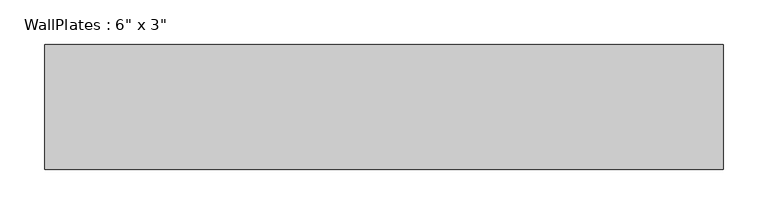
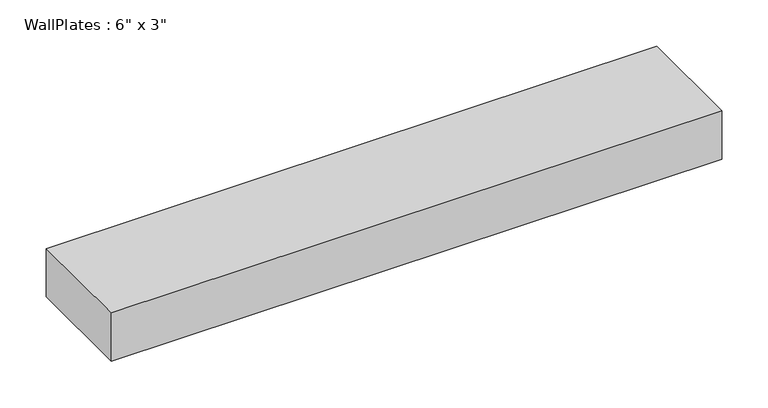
"""IFC4 building model written with IfcOpenShell, lengths in millimetres: beam geometry."""

import ifcopenshell
import ifcopenshell.guid

model = None  # the IFC model being written
_history = None  # IfcOwnerHistory: only IFC2X3 demands one
_inside = {}  # id of a spatial element -> (the spatial element, [elements in it])
_under = {}  # id of a project, library or spatial element -> (it, [spatial elements below it])
_declared = {}  # id of a project -> (the project, [libraries it declares])
_typed = {}  # id of a type object -> (the type object, [elements of that type])
_made_of = {}  # id of a material, layer set ... -> (it, [elements and type objects made of it])


def new_model(schema):
    """Start an empty IFC model of exactly this schema.

    Asked for "IFC4X3", IfcOpenShell would pick the latest addendum, in which some entities
    have other attributes; the version numbers below select the first issue.
    IFC2X3 requires an IfcOwnerHistory on every rooted entity: one is made here for all.
    """
    global model, _history
    if schema == "IFC4X3":
        model = ifcopenshell.file(schema_version=(4, 3, 0, 0))
    else:
        model = ifcopenshell.file(schema=schema)
    _inside.clear()
    _under.clear()
    _declared.clear()
    _typed.clear()
    _made_of.clear()
    _history = None
    if model.schema == "IFC2X3":
        org = make("IfcOrganization", Name="unknown")
        user = make(
            "IfcPersonAndOrganization",
            ThePerson=make("IfcPerson", FamilyName="unknown"),
            TheOrganization=org,
        )
        app = make(
            "IfcApplication",
            ApplicationDeveloper=org,
            Version="unknown",
            ApplicationFullName="unknown",
            ApplicationIdentifier="unknown",
        )
        _history = make(
            "IfcOwnerHistory",
            OwningUser=user,
            OwningApplication=app,
            ChangeAction="ADDED",
            CreationDate=0,
        )
    return model


def make(cls, **values):
    """One entity of the class cls with the attributes given. An attribute that is None is left unset."""
    return model.create_entity(
        cls, **{name: value for name, value in values.items() if value is not None}
    )


def rooted(cls, **values):
    """An entity with a GlobalId (a new one), such as an element, a storey or a relation."""
    return make(cls, GlobalId=ifcopenshell.guid.new(), OwnerHistory=_history, **values)


def si_unit(unit_type, name, prefix=None):
    """IfcSIUnit, for example si_unit("LENGTHUNIT", "METRE", prefix="MILLI")."""
    return make("IfcSIUnit", UnitType=unit_type, Prefix=prefix, Name=name)


def assignment(units):
    """IfcUnitAssignment: the units of a project."""
    return None if units is None else make("IfcUnitAssignment", Units=units)


def point(xyz):
    """IfcCartesianPoint."""
    return None if xyz is None else make("IfcCartesianPoint", Coordinates=xyz)


def direction(xyz):
    """IfcDirection."""
    return None if xyz is None else make("IfcDirection", DirectionRatios=xyz)


def frame(location, z_axis=None, x_axis=None):
    """IfcAxis2Placement3D, a coordinate frame: its origin and axes. An axis left out is left unset."""
    return make(
        "IfcAxis2Placement3D",
        Location=point(location),
        Axis=direction(z_axis),
        RefDirection=direction(x_axis),
    )


def origin():
    """The frame at (0, 0, 0) with its axes left unset."""
    return frame((0.0, 0.0, 0.0))


def place(relative_to, where):
    """IfcLocalPlacement: puts the frame where relative to a parent placement (None: the world)."""
    return make(
        "IfcLocalPlacement", PlacementRelTo=relative_to, RelativePlacement=where
    )


def context(
    kind, dimensions, precision=None, world=None, true_north=None, identifier=None
):
    """IfcGeometricRepresentationContext, for example the 3D "Model" context."""
    return make(
        "IfcGeometricRepresentationContext",
        ContextIdentifier=identifier,
        ContextType=kind,
        CoordinateSpaceDimension=dimensions,
        Precision=precision,
        WorldCoordinateSystem=world,
        TrueNorth=true_north,
    )


def project(units=None, contexts=None):
    """IfcProject with its units and contexts."""
    return rooted(
        "IfcProject",
        Name="project",
        RepresentationContexts=contexts,
        UnitsInContext=assignment(units),
    )


def spatial(cls, under=None, at=None, **own):
    """A site, building, storey or space (cls), placed at a placement, below another one or the project."""
    s = rooted(cls, ObjectPlacement=at, **own)
    if under is not None:
        _under.setdefault(under.id(), (under, []))[1].append(s)
    return s


def polyline(points):
    """IfcPolyline through the points."""
    return make("IfcPolyline", Points=[point(p) for p in points])


def outline(outer, holes=None, kind="AREA"):
    """IfcArbitraryClosedProfileDef: a profile drawn as a closed curve; with holes, ...WithVoids."""
    if holes is None:
        return make("IfcArbitraryClosedProfileDef", ProfileType=kind, OuterCurve=outer)
    return make(
        "IfcArbitraryProfileDefWithVoids",
        ProfileType=kind,
        OuterCurve=outer,
        InnerCurves=holes,
    )


def extrude(swept, where, along, depth):
    """IfcExtrudedAreaSolid: the profile swept, set in the frame where, extruded along a direction by depth."""
    return make(
        "IfcExtrudedAreaSolid",
        SweptArea=swept,
        Position=where,
        ExtrudedDirection=direction(along),
        Depth=depth,
    )


def shape(context_of_items, identifier, shape_type, items):
    """IfcShapeRepresentation: the items that make up one representation, for example the "Body"."""
    return make(
        "IfcShapeRepresentation",
        ContextOfItems=context_of_items,
        RepresentationIdentifier=identifier,
        RepresentationType=shape_type,
        Items=items,
    )


def source(mapping_origin, context_of_items, identifier, shape_type, items):
    """IfcRepresentationMap: a shape defined once, which mapped items show again and again."""
    return make(
        "IfcRepresentationMap",
        MappingOrigin=mapping_origin,
        MappedRepresentation=shape(context_of_items, identifier, shape_type, items),
    )


def transform(
    local_origin,
    x_axis=None,
    y_axis=None,
    z_axis=None,
    scale=None,
    scale2=None,
    scale3=None,
    uniform=True,
):
    """IfcCartesianTransformationOperator3D, or its non-uniform kind. x_axis, y_axis, z_axis: its Axis1, 2, 3."""
    if uniform:
        return make(
            "IfcCartesianTransformationOperator3D",
            Axis1=direction(x_axis),
            Axis2=direction(y_axis),
            LocalOrigin=point(local_origin),
            Scale=scale,
            Axis3=direction(z_axis),
        )
    return make(
        "IfcCartesianTransformationOperator3DnonUniform",
        Axis1=direction(x_axis),
        Axis2=direction(y_axis),
        LocalOrigin=point(local_origin),
        Scale=scale,
        Axis3=direction(z_axis),
        Scale2=scale2,
        Scale3=scale3,
    )


def mapped(mapping_source, mapping_target):
    """IfcMappedItem: shows the shape of a source again, moved by a transform."""
    return make(
        "IfcMappedItem", MappingSource=mapping_source, MappingTarget=mapping_target
    )


def made_of(thing, what):
    """Note that an element or type object is made of a material, layer set ...; save() writes the relation."""
    if what is not None:
        _made_of.setdefault(what.id(), (what, []))[1].append(thing)
    return thing


def element(
    cls,
    number,
    at=None,
    inside=None,
    cuts=None,
    type_object=None,
    material=None,
    context=None,
    identifier="Body",
    shape_type=None,
    held_by="IfcProductDefinitionShape",
    body=None,
    shapes=None,
    **own,
):
    """One element of the class cls, such as IfcWall. Its Tag is "e" and its number.

    at: its placement. inside: the storey or other place that contains it. cuts: it is an
    opening in that element (IfcRelVoidsElement). A single representation is given by context,
    identifier, shape_type and body (its items); several are given by shapes. held_by: the class
    of the entity that holds the representations. save() writes the other relations.
    """
    e = rooted(cls, Tag="e%d" % number, ObjectPlacement=at, **own)
    if body is not None:
        shapes = [shape(context, identifier, shape_type, body)]
    if shapes is not None:
        e.Representation = make(held_by, Representations=shapes)
    if inside is not None:
        _inside.setdefault(inside.id(), (inside, []))[1].append(e)
    if cuts is not None:
        rooted(
            "IfcRelVoidsElement", RelatingBuildingElement=cuts, RelatedOpeningElement=e
        )
    if type_object is not None:
        _typed.setdefault(type_object.id(), (type_object, []))[1].append(e)
    return made_of(e, material)


def aggregate(whole, parts):
    """IfcRelAggregates: a whole, such as a stair, and the parts it consists of."""
    return rooted("IfcRelAggregates", RelatingObject=whole, RelatedObjects=parts)


def save(model, path):
    """Write the relations noted so far, then the file.

    IfcRelAggregates (storeys below a building ...), IfcRelContainedInSpatialStructure (elements
    in a storey), IfcRelDefinesByType, IfcRelAssociatesMaterial and IfcRelDeclares: one each for
    every whole, place, type object, material and project.
    """
    for whole, parts in _under.values():
        aggregate(whole, parts)
    for where, things in _inside.values():
        rooted(
            "IfcRelContainedInSpatialStructure",
            RelatedElements=things,
            RelatingStructure=where,
        )
    for kind, things in _typed.values():
        rooted("IfcRelDefinesByType", RelatedObjects=things, RelatingType=kind)
    for what, things in _made_of.values():
        rooted("IfcRelAssociatesMaterial", RelatedObjects=things, RelatingMaterial=what)
    for by, libraries in _declared.values():
        rooted("IfcRelDeclares", RelatingContext=by, RelatedDefinitions=libraries)
    model.write(path)


def beam_87a5317c(model_context):
    return source(origin(), model_context, "Body", "SweptSolid", [
        extrude(outline(polyline([(-379.624112, -69.85), (-379.624112, 69.85), (379.624112, 69.85), (379.624112, -69.85), (-379.624112, -69.85)])), frame((0.0, 0.0, -31.75), z_axis=(0.0, 0.0, 1.0), x_axis=(1.0, 0.0, 0.0)), (0.0, 0.0, 1.0), 63.5),
    ])


if __name__ == "__main__":
    model = new_model("IFC4")
    model_context = context("Model", 3, world=origin())
    ifc_project = project(units=[si_unit("LENGTHUNIT", "METRE", prefix="MILLI")], contexts=[model_context])
    site = spatial("IfcSite", under=ifc_project)
    building = spatial("IfcBuilding", under=site)
    placement = place(None, origin())
    beam_shape = beam_87a5317c(model_context)
    element("IfcBeam", 1, ObjectType="WallPlates : 6\" x 3\"", at=placement, inside=building, context=model_context, shape_type="MappedRepresentation", body=[
        mapped(beam_shape, transform((0.0, 0.0, 0.0), x_axis=(1.0, 0.0, 0.0), y_axis=(0.0, 1.0, 0.0), z_axis=(0.0, 0.0, 1.0))),
    ])
    save(model, "model.ifc")
